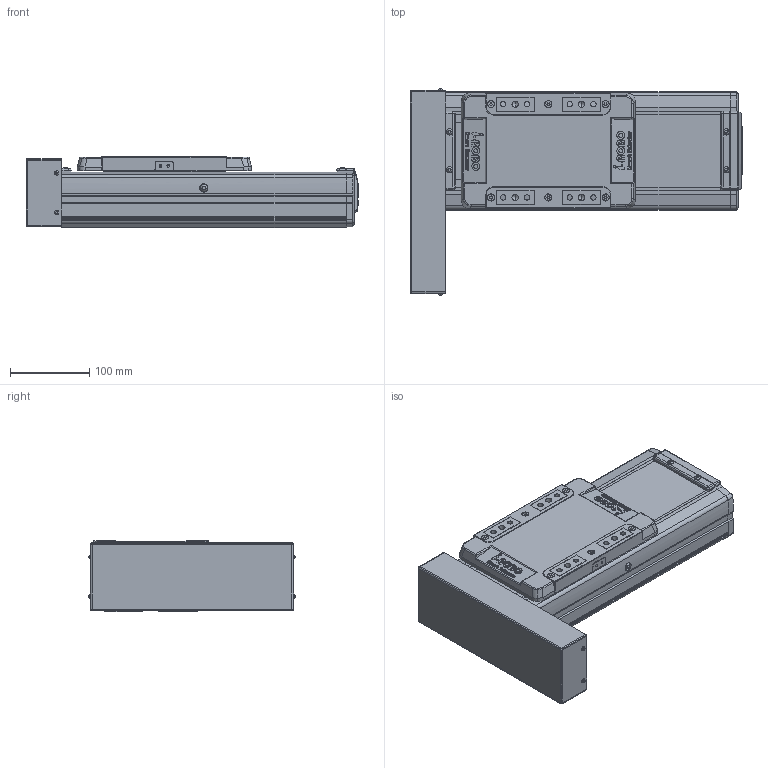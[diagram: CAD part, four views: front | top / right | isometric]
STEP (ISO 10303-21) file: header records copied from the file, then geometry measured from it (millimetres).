
FILE_DESCRIPTION(('STEP AP214'),'1');
FILE_NAME('Z:/Web/3D/SAN150/2013.04 (STP.)/SAN150ㅁㅁ-100PR.stp','2013-05-08T02:42:38',(' '),(' '),'Spatial InterOp 3D',' ',' ');
FILE_SCHEMA(('automotive_design'));
Length unit declared in the file: millimetre
Products named in the file (38): SLBL-SAN150; SLCV-SAN150; FHCS M4.0 x 8.0; BHCS M4.0 x 10.0; SFX-SAN150; RRCV-SAN150; FRBL-SAN150; Spacer; RN15; FRCV-SAN150; Screw 20; BASE-SAN150-000L ; SUS COVER; 스크루 : Round - M5.0 x 6.0; BHCS M3.0 x 6.0; P
Bounding box: 420 x 260.73 x 90 mm (x, y, z)
Volume: 3700586.2 mm3; surface area: 607227.6 mm2
Topology: 38 solids, 38 shells, 2011 faces, 5165 edges, 3298 vertices
Faces by surface type: plane 1003, cylinder 705, cone 214, sphere 56, bspline 21, torus 12
Entity records: 79330 total; most frequent: CARTESIAN_POINT 12598, DIRECTION 10948, ORIENTED_EDGE 10130, EDGE_CURVE 5065, AXIS2_PLACEMENT_3D 3915, VERTEX_POINT 3298, LINE 3118, VECTOR 3118
